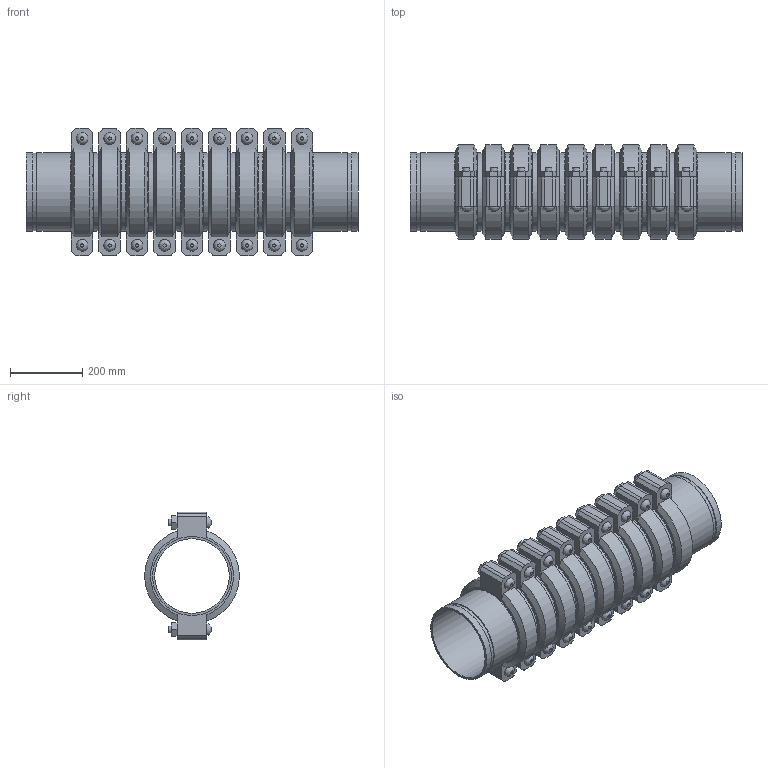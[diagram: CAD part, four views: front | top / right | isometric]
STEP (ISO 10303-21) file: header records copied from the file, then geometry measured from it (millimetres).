
FILE_DESCRIPTION(/* description */ ('VIC SS EXPANSION JOINT 9 COUPLINGS EXPANDED STYLE 155P (OGS) (POTABLE WATER) ','CAx-IF Rec.Pracs.---Representation and Presentation of Product Manufacturing Information (PMI)---4.0---2014-10-13'),/* implementation_level */ '2;1');
FILE_NAME(/* name */ 'C:\Users\kkamble\AppData\Roaming\Autodesk\ApplicationPlugins\Victaulic.Temp\A474\Victaulic_SS_Expansion Joint_Expanded_9 Couplings_Style 155P (OGS)-Potable Water_9 Coup_Expd_8 (200).stp',/* time_stamp */ '2021-07-16T16:58:06+05:00',/* author */ ('kkamble'),/* organization */ ('Victaulic'),/* preprocessor_version */ 'ST-DEVELOPER v17.2',/* originating_system */ 'Autodesk Inventor 2019',/* authorisation */ '');
FILE_SCHEMA (('AP242_MANAGED_MODEL_BASED_3D_ENGINEERING_MIM_LF { 1 0 10303 442 1 1 4 }'));
Length unit declared in the file: inch
Products named in the file (4): 155P-08.0; Nipple-08.0; Nipple-08.0_1; 075-08.0
Assembly tree (19 placements, depth 2):
  155P-08.0
    Nipple-08.0  x2
    Nipple-08.0_1  x8
    075-08.0  x9
Bounding box: 920.75 x 261.72 x 354.84 mm (x, y, z)
Volume: 15750755.8 mm3; surface area: 2876392.4 mm2
Topology: 19 solids, 37 shells, 633 faces, 1497 edges, 1050 vertices
Faces by surface type: plane 384, cylinder 195, cone 36, bspline 18
Full cylindrical faces by diameter (mm): 19.05 x36, 21.209 x18, 206.985 x10, 212.725 x9, 214.401 x20, 219.075 x48
Entity records: 2856 total; most frequent: CARTESIAN_POINT 503, DIRECTION 481, ORIENTED_EDGE 386, AXIS2_PLACEMENT_3D 194, EDGE_CURVE 193, VERTEX_POINT 138, EDGE_LOOP 107, LINE 93
